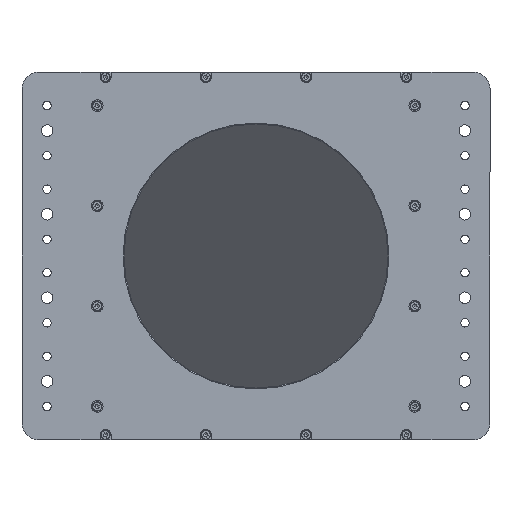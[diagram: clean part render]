
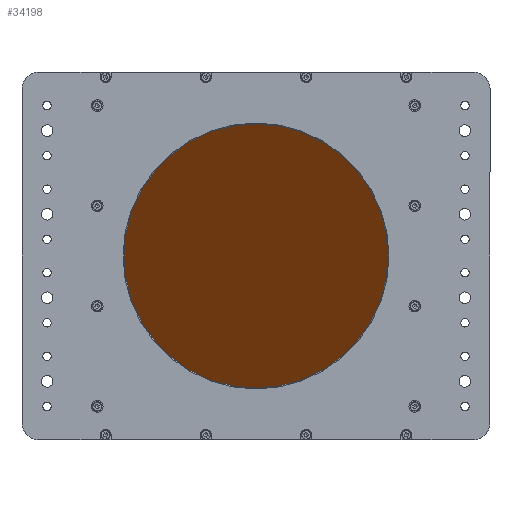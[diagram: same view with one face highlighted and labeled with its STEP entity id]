
A CAD part, front view. The second image highlights one B-rep face of the part: STEP entity #34198.
In plain terms, the highlighted planar face has unit normal (0, -0.707, -0.707).
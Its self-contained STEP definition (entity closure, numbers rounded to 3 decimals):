
#1087 = CARTESIAN_POINT ( 'NONE',  ( 0., 0., 0. ) ) ;
#1363 = VERTEX_POINT ( 'NONE', #3155 ) ;
#1544 = EDGE_LOOP ( 'NONE', ( #31181, #39502, #46616, #41328, #40713, #42650, #45046, #50934 ) ) ;
#3155 = CARTESIAN_POINT ( 'NONE',  ( 77.5, 81.317, -81.317 ) ) ;
#3320 = VERTEX_POINT ( 'NONE', #46667 ) ;
#5528 = CIRCLE ( 'NONE', #7752, 5. ) ;
#7297 = VERTEX_POINT ( 'NONE', #47882 ) ;
#7642 = CIRCLE ( 'NONE', #51524, 5. ) ;
#7752 = AXIS2_PLACEMENT_3D ( 'NONE', #22951, #50848, #26918 ) ;
#9107 = PLANE ( 'NONE',  #37633 ) ;
#9542 = VERTEX_POINT ( 'NONE', #20756 ) ;
#9789 = CARTESIAN_POINT ( 'NONE',  ( -77.5, -77.782, 77.782 ) ) ;
#13736 = DIRECTION ( 'NONE',  ( 0., 0.707, -0.707 ) ) ;
#14255 = CARTESIAN_POINT ( 'NONE',  ( -82.5, 0., 0. ) ) ;
#15362 = LINE ( 'NONE', #34043, #15451 ) ;
#15451 = VECTOR ( 'NONE', #38050, 1000. ) ;
#16039 = FACE_OUTER_BOUND ( 'NONE', #1544, .T. ) ;
#16721 = DIRECTION ( 'NONE',  ( 0., -0.707, -0.707 ) ) ;
#18514 = VERTEX_POINT ( 'NONE', #36621 ) ;
#20756 = CARTESIAN_POINT ( 'NONE',  ( -82.5, 77.782, -77.782 ) ) ;
#20852 = AXIS2_PLACEMENT_3D ( 'NONE', #9789, #37488, #13736 ) ;
#21028 = DIRECTION ( 'NONE',  ( 0., 0.707, -0.707 ) ) ;
#22245 = DIRECTION ( 'NONE',  ( 0., -0.707, -0.707 ) ) ;
#22697 = LINE ( 'NONE', #14255, #23420 ) ;
#22951 = CARTESIAN_POINT ( 'NONE',  ( 77.5, -77.782, 77.782 ) ) ;
#23005 = DIRECTION ( 'NONE',  ( 0., 0.707, -0.707 ) ) ;
#23095 = LINE ( 'NONE', #41848, #23628 ) ;
#23420 = VECTOR ( 'NONE', #38017, 1000. ) ;
#23628 = VECTOR ( 'NONE', #26143, 1000. ) ;
#25047 = VERTEX_POINT ( 'NONE', #49460 ) ;
#25420 = CARTESIAN_POINT ( 'NONE',  ( -82.5, -77.782, 77.782 ) ) ;
#26143 = DIRECTION ( 'NONE',  ( 1., 0., 0. ) ) ;
#26918 = DIRECTION ( 'NONE',  ( 0., 0.707, -0.707 ) ) ;
#26919 = VERTEX_POINT ( 'NONE', #40952 ) ;
#27012 = VERTEX_POINT ( 'NONE', #25420 ) ;
#27704 = AXIS2_PLACEMENT_3D ( 'NONE', #46103, #22245, #50113 ) ;
#30395 = EDGE_CURVE ( 'NONE', #18514, #27012, #42205, .T. ) ;
#31181 = ORIENTED_EDGE ( 'NONE', *, *, #49089, .F. ) ;
#31333 = CIRCLE ( 'NONE', #27704, 5. ) ;
#34043 = CARTESIAN_POINT ( 'NONE',  ( 0., 81.317, -81.317 ) ) ;
#34198 = ADVANCED_FACE ( 'NONE', ( #16039 ), #9107, .F. ) ;
#34409 = EDGE_CURVE ( 'NONE', #18514, #25047, #23095, .T. ) ;
#36074 = EDGE_CURVE ( 'NONE', #9542, #7297, #31333, .T. ) ;
#36562 = EDGE_CURVE ( 'NONE', #9542, #27012, #22697, .T. ) ;
#36621 = CARTESIAN_POINT ( 'NONE',  ( -77.5, -81.317, 81.317 ) ) ;
#37080 = LINE ( 'NONE', #50902, #38450 ) ;
#37488 = DIRECTION ( 'NONE',  ( 0., -0.707, -0.707 ) ) ;
#37633 = AXIS2_PLACEMENT_3D ( 'NONE', #1087, #44856, #21028 ) ;
#38017 = DIRECTION ( 'NONE',  ( 0., -0.707, 0.707 ) ) ;
#38050 = DIRECTION ( 'NONE',  ( -1., 0., 0. ) ) ;
#38450 = VECTOR ( 'NONE', #23005, 1000. ) ;
#39502 = ORIENTED_EDGE ( 'NONE', *, *, #44399, .T. ) ;
#40560 = CARTESIAN_POINT ( 'NONE',  ( 77.5, 77.782, -77.782 ) ) ;
#40713 = ORIENTED_EDGE ( 'NONE', *, *, #34409, .F. ) ;
#40952 = CARTESIAN_POINT ( 'NONE',  ( 82.5, -77.782, 77.782 ) ) ;
#41328 = ORIENTED_EDGE ( 'NONE', *, *, #48553, .T. ) ;
#41848 = CARTESIAN_POINT ( 'NONE',  ( 0., -81.317, 81.317 ) ) ;
#42205 = CIRCLE ( 'NONE', #20852, 5. ) ;
#42650 = ORIENTED_EDGE ( 'NONE', *, *, #30395, .T. ) ;
#44399 = EDGE_CURVE ( 'NONE', #1363, #3320, #7642, .T. ) ;
#44570 = DIRECTION ( 'NONE',  ( 0., 0.707, -0.707 ) ) ;
#44856 = DIRECTION ( 'NONE',  ( 0., 0.707, 0.707 ) ) ;
#45046 = ORIENTED_EDGE ( 'NONE', *, *, #36562, .F. ) ;
#46103 = CARTESIAN_POINT ( 'NONE',  ( -77.5, 77.782, -77.782 ) ) ;
#46167 = EDGE_CURVE ( 'NONE', #26919, #3320, #37080, .T. ) ;
#46616 = ORIENTED_EDGE ( 'NONE', *, *, #46167, .F. ) ;
#46667 = CARTESIAN_POINT ( 'NONE',  ( 82.5, 77.782, -77.782 ) ) ;
#47882 = CARTESIAN_POINT ( 'NONE',  ( -77.5, 81.317, -81.317 ) ) ;
#48553 = EDGE_CURVE ( 'NONE', #26919, #25047, #5528, .T. ) ;
#49089 = EDGE_CURVE ( 'NONE', #1363, #7297, #15362, .T. ) ;
#49460 = CARTESIAN_POINT ( 'NONE',  ( 77.5, -81.317, 81.317 ) ) ;
#50113 = DIRECTION ( 'NONE',  ( 0., 0.707, -0.707 ) ) ;
#50848 = DIRECTION ( 'NONE',  ( 0., -0.707, -0.707 ) ) ;
#50902 = CARTESIAN_POINT ( 'NONE',  ( 82.5, 0., 0. ) ) ;
#50934 = ORIENTED_EDGE ( 'NONE', *, *, #36074, .T. ) ;
#51524 = AXIS2_PLACEMENT_3D ( 'NONE', #40560, #16721, #44570 ) ;
